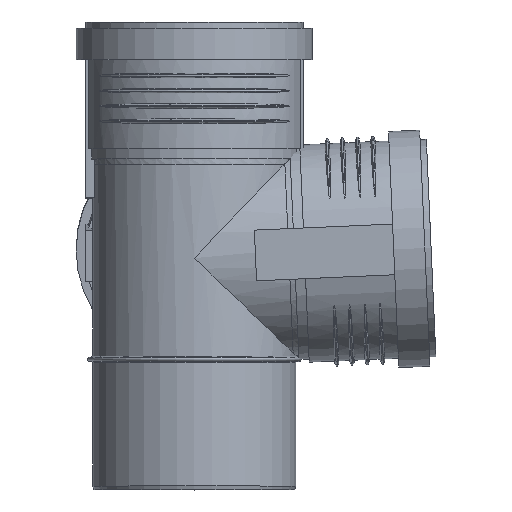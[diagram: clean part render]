
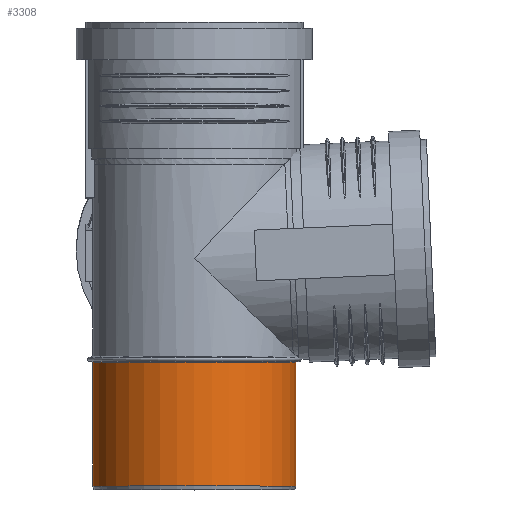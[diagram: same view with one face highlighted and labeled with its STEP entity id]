
A CAD part, top view. The second image highlights one B-rep face of the part: STEP entity #3308.
In plain terms, the highlighted cylindrical face has radius 55.1 mm (diameter 110.2 mm), a full revolution.
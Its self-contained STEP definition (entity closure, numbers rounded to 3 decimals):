
#744=FACE_OUTER_BOUND($,#1184,.T.);
#928=CIRCLE($,#3528,55.1);
#930=CIRCLE($,#3531,55.1);
#1084=FACE_BOUND($,#1185,.T.);
#1184=EDGE_LOOP($,(#2317));
#1185=EDGE_LOOP($,(#2318));
#1504=VERTEX_POINT($,#4858);
#1506=VERTEX_POINT($,#4863);
#1844=EDGE_CURVE($,#1504,#1504,#928,.T.);
#1846=EDGE_CURVE($,#1506,#1506,#930,.T.);
#2317=ORIENTED_EDGE($,*,*,#1846,.T.);
#2318=ORIENTED_EDGE($,*,*,#1844,.F.);
#3242=CYLINDRICAL_SURFACE($,#3530,55.1);
#3308=ADVANCED_FACE($,(#744,#1084),#3242,.T.);
#3528=AXIS2_PLACEMENT_3D($,#4859,#3948,#3949);
#3530=AXIS2_PLACEMENT_3D($,#4862,#3952,#3953);
#3531=AXIS2_PLACEMENT_3D($,#4864,#3954,#3955);
#3948=DIRECTION('center_axis',(0.,-1.,0.));
#3949=DIRECTION('ref_axis',(1.,0.,0.));
#3952=DIRECTION('center_axis',(0.,1.,0.));
#3953=DIRECTION('ref_axis',(1.,0.,0.));
#3954=DIRECTION('center_axis',(0.,-1.,0.));
#3955=DIRECTION('ref_axis',(1.,0.,0.));
#4858=CARTESIAN_POINT('',(-55.1,2.,0.));
#4859=CARTESIAN_POINT('Origin',(0.,2.,0.));
#4862=CARTESIAN_POINT('Origin',(0.,0.,0.));
#4863=CARTESIAN_POINT('',(-55.1,69.1,0.));
#4864=CARTESIAN_POINT('Origin',(0.,69.1,0.));
